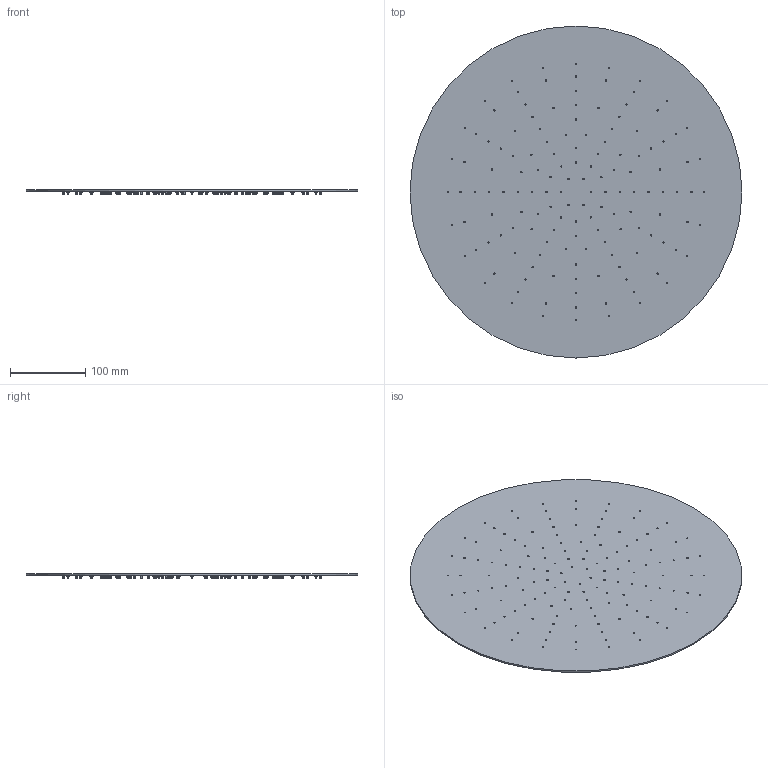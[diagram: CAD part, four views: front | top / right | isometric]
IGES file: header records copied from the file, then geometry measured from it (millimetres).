
Start section:  PTC IGES file: 90919.igs
Global section: file name: 90919.igs; native system: Creo Parametric by PTC Inc.; preprocessor: 2018100; author: carloff; organization: Unknown; date: 20210414.140845; units: millimetre
Bounding box: 440 x 440 x 5.8 mm (x, y, z)
Surface area: 314089.3 mm2 (no closed solid volume)
Topology: 0 solids, 0 shells, 3460 faces, 14412 edges, 14412 vertices
Faces by surface type: revolution 3170, bspline 290
